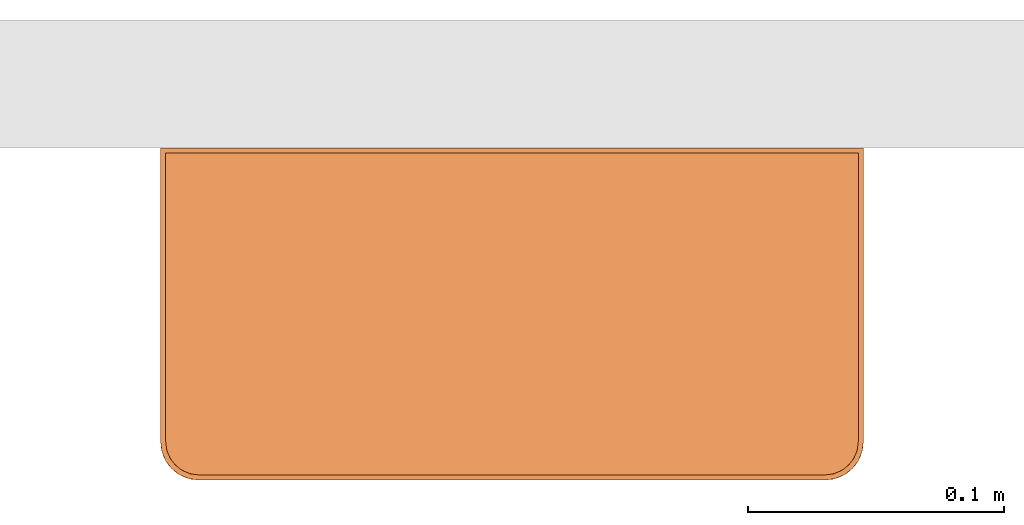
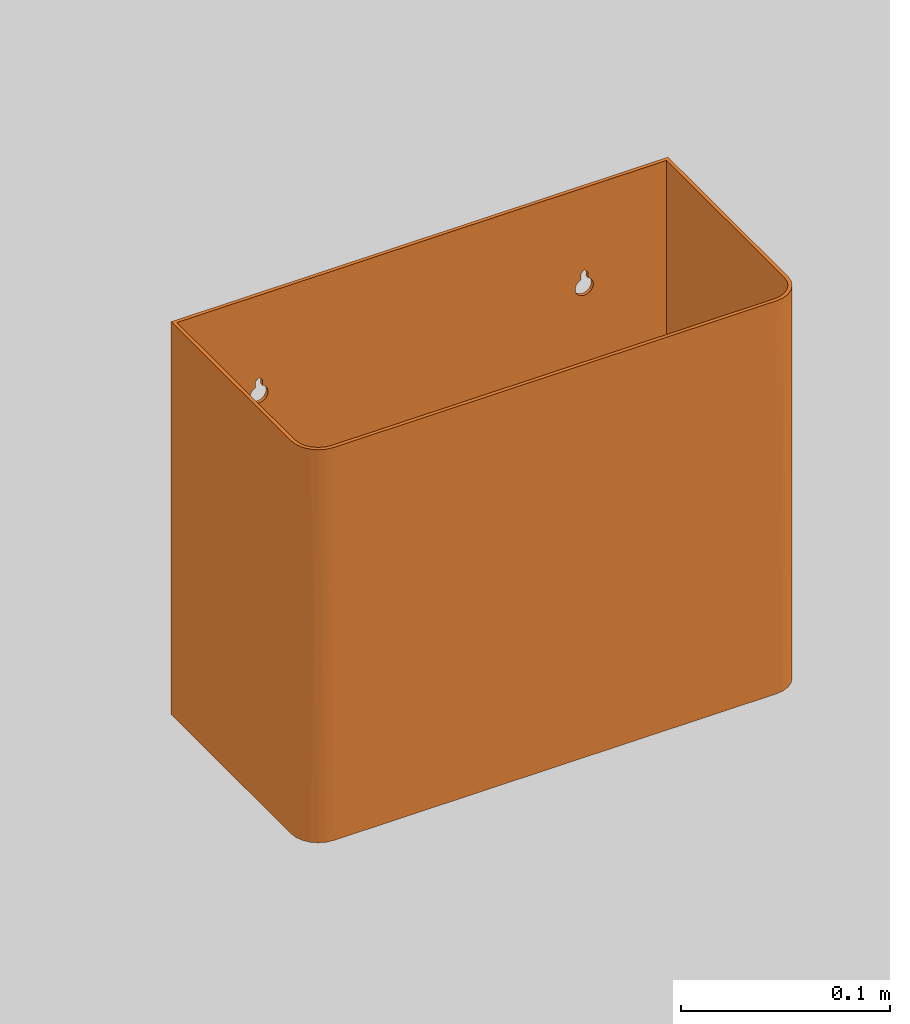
# One storey, part 2 of 2: 1 proxy.
"""IFC2X3 building model written with IfcOpenShell, lengths in millimetres."""

from ifc_helpers import new_model, entity, si_unit, converted_unit, derived_unit, direction, frame, origin, place, context, subcontext, project, spatial, faceted_brep, source, transform, mapped, material, material_list, element, save


model = new_model("IFC2X3")

# Units and contexts
model_context = context("Model", 3, precision=1e-05, world=origin(), true_north=direction((2.0, 6.12303176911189e-17, 1.0)))
context_of_model = context(None, 3, precision=1e-05, world=origin(), true_north=direction((2.0, 6.12303176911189e-17, 1.0)))
body_context = subcontext(model_context, "Body", "Model", "MODEL_VIEW")
ifc_project = project(units=[si_unit("LENGTHUNIT", "METRE", prefix="MILLI"), si_unit("AREAUNIT", "SQUARE_METRE"), si_unit("VOLUMEUNIT", "CUBIC_METRE"), converted_unit("PLANEANGLEUNIT", "DEGREE", entity("IfcRatioMeasure", 0.0174532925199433), si_unit("PLANEANGLEUNIT", "RADIAN"), dimensions=[0, 0, 0, 0, 0, 0, 0]), si_unit("MASSUNIT", "GRAM", prefix="KILO"), si_unit("TIMEUNIT", "SECOND"), si_unit("THERMODYNAMICTEMPERATUREUNIT", "KELVIN"), derived_unit("THERMALTRANSMITTANCEUNIT", [(si_unit("MASSUNIT", "GRAM", prefix="KILO"), 1), (si_unit("THERMODYNAMICTEMPERATUREUNIT", "KELVIN"), -1), (si_unit("TIMEUNIT", "SECOND"), -3)]), derived_unit("VOLUMETRICFLOWRATEUNIT", [(si_unit("LENGTHUNIT", "METRE"), 3), (si_unit("TIMEUNIT", "SECOND"), -1)]), si_unit("POWERUNIT", "WATT")], contexts=[model_context, context_of_model])

# Site, building, storey
site_placement = place(None, origin())
site = spatial("IfcSite", under=ifc_project, at=site_placement, Name="Default", CompositionType="ELEMENT")
building_placement = place(site_placement, origin())
building = spatial("IfcBuilding", under=site, at=building_placement, CompositionType="ELEMENT")
storey_placement = place(building_placement, origin())
storey = spatial("IfcBuildingStorey", under=building, at=storey_placement, Name="Level 1", CompositionType="ELEMENT", Elevation=0.0)

# Proxy
ifc_material = material(Name="Stainless Steel")
ifc_material_list = material_list([ifc_material])
shared_shape = source(origin(), body_context, "Body", "Brep", [
    faceted_brep([(137.5, 0.0, 230.0), (135.5, -2.0, 230.0), (137.5, -115.0, 230.0), (-135.5, -2.0, 230.0), (-137.5, 0.0, 230.0), (-137.500000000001, -115.0, 230.0), (-135.500000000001, -115.0, 230.0), (-135.057035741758, -118.364647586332, 230.0), (-136.988887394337, -118.882285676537, 230.0), (-135.490381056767, -122.499999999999, 230.0), (-133.758330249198, -121.499999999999, 230.0), (-133.106601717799, -125.606601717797, 230.0), (-131.692388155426, -124.192388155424, 230.0), (-130.0, -127.990381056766, 230.0), (-129.0, -126.258330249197, 230.0), (-126.382285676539, -129.488887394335, 230.0), (-125.864647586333, -127.557035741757, 230.0), (-122.500000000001, -130.0, 230.0), (-122.500000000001, -128.0, 230.0), (122.5, -128.0, 230.0), (122.5, -130.0, 230.0), (125.864647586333, -127.557035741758, 230.0), (126.382285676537, -129.488887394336, 230.0), (129.0, -126.258330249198, 230.0), (130.0, -127.990381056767, 230.0), (131.692388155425, -124.192388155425, 230.0), (133.106601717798, -125.606601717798, 230.0), (133.758330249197, -121.5, 230.0), (135.490381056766, -122.5, 230.0), (135.057035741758, -118.364647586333, 230.0), (136.988887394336, -118.882285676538, 230.0), (135.5, -115.0, 230.0), (-137.5, 0.0, 0.0), (-135.5, -2.0, 0.0), (-137.500000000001, -115.0, 0.0), (135.5, -2.0, 0.0), (137.5, 0.0, 0.0), (137.5, -115.0, 0.0), (135.5, -115.0, 0.0), (135.057035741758, -118.364647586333, 0.0), (136.988887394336, -118.882285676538, 0.0), (135.490381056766, -122.5, 0.0), (133.758330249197, -121.5, 0.0), (133.106601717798, -125.606601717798, 0.0), (131.692388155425, -124.192388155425, 0.0), (130.0, -127.990381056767, 0.0), (129.0, -126.258330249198, 0.0), (126.382285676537, -129.488887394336, 0.0), (125.864647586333, -127.557035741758, 0.0), (122.5, -130.0, 0.0), (122.5, -128.0, 0.0), (-122.500000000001, -128.0, 0.0), (-122.500000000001, -130.0, 0.0), (-125.864647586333, -127.557035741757, 0.0), (-126.382285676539, -129.488887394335, 0.0), (-129.0, -126.258330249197, 0.0), (-130.0, -127.990381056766, 0.0), (-131.692388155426, -124.192388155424, 0.0), (-133.106601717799, -125.606601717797, 0.0), (-133.758330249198, -121.499999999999, 0.0), (-135.490381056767, -122.499999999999, 0.0), (-135.057035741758, -118.364647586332, 0.0), (-136.988887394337, -118.882285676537, 0.0), (-135.500000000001, -115.0, 0.0), (91.9739309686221, 0.0, 180.0), (93.0956506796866, 0.0, 175.941879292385), (91.9739309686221, 0.0, 176.609302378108), (94.006406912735, 0.0, 175.006875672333), (94.6441331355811, 0.0, 173.868010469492), (90.0, 0.0, 181.973930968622), (-90.0, 0.0, 181.973930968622), (-88.0260690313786, 0.0, 180.0), (88.0260690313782, 0.0, 180.0), (85.3722684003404, 0.0, 173.908609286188), (86.0111260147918, 0.0, 175.030214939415), (86.9158242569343, 0.0, 175.950899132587), (88.0260690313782, 0.0, 176.609302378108), (-85.3558668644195, 0.0, 173.868010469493), (85.0418284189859, 0.0, 172.660832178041), (-85.0346306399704, 0.0, 172.602895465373), (85.0418284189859, 0.0, 171.370042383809), (-85.0517761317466, 0.0, 171.297746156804), (85.3722684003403, 0.0, 170.122265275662), (-85.4061349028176, 0.0, 170.041506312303), (86.0111260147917, 0.0, 169.000659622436), (-86.0735579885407, 0.0, 168.919786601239), (86.9158242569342, 0.0, 168.079975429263), (-87.0085616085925, 0.0, 168.00903036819), (88.0260690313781, 0.0, 167.421572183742), (89.282308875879, 0.0, 167.067213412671), (90.5874581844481, 0.0, 167.050067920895), (91.8525731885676, 0.0, 167.371304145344), (92.9914383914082, 0.0, 168.00903036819), (93.92644201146, 0.0, 168.919786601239), (94.593865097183, 0.0, 170.041506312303), (94.948223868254, 0.0, 171.297746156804), (94.9653693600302, 0.0, 172.602895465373), (-88.1474268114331, 0.0, 167.371304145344), (-89.4125418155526, 0.0, 167.050067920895), (-90.7176911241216, 0.0, 167.067213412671), (-91.9739309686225, 0.0, 167.421572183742), (-93.0841757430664, 0.0, 168.079975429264), (-93.988873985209, 0.0, 169.000659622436), (-94.6277315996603, 0.0, 170.122265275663), (-91.9739309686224, 0.0, 180.0), (-94.6277315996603, 0.0, 173.908609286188), (-94.9581715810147, 0.0, 172.660832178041), (-94.9581715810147, 0.0, 171.37004238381), (-85.9935930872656, 0.0, 175.006875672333), (-86.9043493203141, 0.0, 175.941879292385), (-88.0260690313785, 0.0, 176.609302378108), (-93.9888739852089, 0.0, 175.030214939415), (-93.0841757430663, 0.0, 175.950899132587), (-91.9739309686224, 0.0, 176.609302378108), (-137.500000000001, -115.0, 114.999756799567), (-136.358192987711, -120.740251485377, 115.0), (-125.426354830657, -129.711779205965, 144.660147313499), (-128.240251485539, -128.858192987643, 115.0), (-137.211779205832, -117.926354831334, 85.3398527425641), (-134.400300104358, -124.131421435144, 99.2597790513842), (-122.500000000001, -130.0, 115.0), (-131.631421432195, -126.900300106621, 130.740221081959), (122.5, -130.0, 115.0), (128.240251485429, -128.858192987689, 115.0), (137.211779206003, -117.926354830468, 144.660147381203), (136.358192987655, -120.74025148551, 115.0), (125.426354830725, -129.711779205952, 85.3398526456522), (131.631421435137, -126.900300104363, 99.2597789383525), (137.5, -115.0, 115.0), (134.400300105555, -124.131421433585, 130.740221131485), (135.5, -115.0, 115.0), (132.813593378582, -122.913898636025, 141.133766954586), (134.510433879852, -119.97488472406, 115.00000278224), (135.250208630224, -117.536174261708, 151.589180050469), (125.036174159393, -127.750208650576, 78.4108225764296), (135.293247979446, -117.30928693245, 72.7352310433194), (132.813593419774, -122.913898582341, 62.0475025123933), (130.413898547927, -125.313593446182, 167.952499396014), (127.474884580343, -127.010433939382, 115.000000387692), (130.413898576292, -125.313593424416, 88.86623633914), (122.5, -128.0, 115.0), (124.809286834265, -127.79324799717, 157.264775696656), (-122.500000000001, -128.0, 125.895203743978), (-127.474884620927, -127.010433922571, 88.8662344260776), (-125.780790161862, -127.579205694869, 150.045238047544), (-124.765687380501, -127.801041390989, 75.870035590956), (-130.413898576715, -125.313593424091, 115.0), (-128.187269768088, -126.689951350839, 160.129772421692), (-132.813593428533, -122.913898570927, 167.952498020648), (-132.81359342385, -122.91389857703, 88.8662341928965), (-134.510433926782, -119.974884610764, 115.0), (-135.500000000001, -115.0, 115.000212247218), (-135.293247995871, -117.309286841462, 157.264775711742), (-135.25020864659, -117.536174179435, 78.4108226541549), (-91.9739309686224, -2.0, 180.0), (-93.0841757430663, -2.0, 175.950899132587), (-91.9739309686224, -2.0, 176.609302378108), (-93.9888739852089, -2.0, 175.030214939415), (-94.6277315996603, -2.0, 173.908609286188), (-90.0, -2.0, 181.973930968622), (90.0, -2.0, 181.973930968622), (88.0260690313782, -2.0, 180.0), (-88.0260690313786, -2.0, 180.0), (85.3722684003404, -2.0, 173.908609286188), (-85.3558668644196, -2.0, 173.868010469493), (-85.9935930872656, -2.0, 175.006875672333), (-86.9043493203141, -2.0, 175.941879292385), (-88.0260690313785, -2.0, 176.609302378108), (85.0418284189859, -2.0, 172.660832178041), (-85.0346306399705, -2.0, 172.602895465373), (85.0418284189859, -2.0, 171.370042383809), (-85.0517761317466, -2.0, 171.297746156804), (85.3722684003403, -2.0, 170.122265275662), (-85.4061349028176, -2.0, 170.041506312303), (86.0111260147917, -2.0, 169.000659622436), (-86.0735579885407, -2.0, 168.919786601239), (86.9158242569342, -2.0, 168.079975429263), (-87.0085616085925, -2.0, 168.00903036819), (-88.1474268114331, -2.0, 167.371304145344), (-89.4125418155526, -2.0, 167.050067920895), (-90.7176911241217, -2.0, 167.067213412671), (-91.9739309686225, -2.0, 167.421572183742), (-93.0841757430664, -2.0, 168.079975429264), (-93.988873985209, -2.0, 169.000659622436), (-94.6277315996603, -2.0, 170.122265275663), (-94.9581715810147, -2.0, 171.37004238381), (-94.9581715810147, -2.0, 172.660832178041), (88.0260690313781, -2.0, 167.421572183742), (89.282308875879, -2.0, 167.067213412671), (90.5874581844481, -2.0, 167.050067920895), (91.8525731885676, -2.0, 167.371304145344), (92.9914383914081, -2.0, 168.00903036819), (93.92644201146, -2.0, 168.919786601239), (94.593865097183, -2.0, 170.041506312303), (91.9739309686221, -2.0, 180.0), (94.6441331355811, -2.0, 173.868010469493), (94.9653693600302, -2.0, 172.602895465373), (94.948223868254, -2.0, 171.297746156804), (86.0111260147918, -2.0, 175.030214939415), (86.9158242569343, -2.0, 175.950899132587), (88.0260690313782, -2.0, 176.609302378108), (94.006406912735, -2.0, 175.006875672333), (93.0956506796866, -2.0, 175.941879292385), (91.9739309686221, -2.0, 176.609302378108)], [[[0, 1, 2]], [[1, 0, 3]], [[4, 3, 0]], [[3, 4, 5]], [[5, 6, 3]], [[7, 6, 5]], [[8, 7, 5]], [[9, 7, 8]], [[9, 10, 7]], [[10, 9, 11]], [[11, 12, 10]], [[12, 11, 13]], [[13, 14, 12]], [[14, 13, 15]], [[16, 14, 15]], [[15, 17, 16]], [[18, 16, 17]], [[18, 17, 19]], [[19, 17, 20]], [[21, 19, 20]], [[20, 22, 21]], [[21, 22, 23]], [[24, 23, 22]], [[23, 24, 25]], [[26, 25, 24]], [[25, 26, 27]], [[28, 27, 26]], [[27, 28, 29]], [[29, 28, 30]], [[29, 30, 2]], [[2, 1, 31]], [[29, 2, 31]], [[32, 33, 34]], [[33, 32, 35]], [[36, 35, 32]], [[35, 36, 37]], [[37, 38, 35]], [[39, 38, 37]], [[40, 39, 37]], [[41, 39, 40]], [[41, 42, 39]], [[42, 41, 43]], [[43, 44, 42]], [[44, 43, 45]], [[45, 46, 44]], [[46, 45, 47]], [[48, 46, 47]], [[47, 49, 48]], [[50, 48, 49]], [[50, 49, 51]], [[51, 49, 52]], [[53, 51, 52]], [[52, 54, 53]], [[53, 54, 55]], [[56, 55, 54]], [[55, 56, 57]], [[58, 57, 56]], [[57, 58, 59]], [[60, 59, 58]], [[59, 60, 61]], [[61, 60, 62]], [[61, 62, 34]], [[34, 33, 63]], [[61, 34, 63]], [[64, 65, 66]], [[67, 65, 64]], [[68, 67, 64]], [[68, 64, 0]], [[0, 64, 69]], [[0, 69, 70]], [[71, 70, 69]], [[71, 69, 72]], [[72, 73, 71]], [[74, 73, 72]], [[75, 74, 72]], [[72, 76, 75]], [[73, 77, 71]], [[77, 73, 78]], [[79, 77, 78]], [[80, 79, 78]], [[81, 79, 80]], [[80, 82, 81]], [[83, 81, 82]], [[83, 82, 84]], [[84, 85, 83]], [[86, 85, 84]], [[85, 86, 87]], [[36, 87, 86]], [[86, 88, 36]], [[88, 89, 36]], [[89, 90, 36]], [[91, 36, 90]], [[92, 36, 91]], [[36, 92, 93]], [[93, 94, 36]], [[95, 0, 94]], [[0, 36, 94]], [[0, 95, 96]], [[96, 68, 0]], [[32, 87, 36]], [[97, 87, 32]], [[98, 97, 32]], [[32, 99, 98]], [[99, 32, 100]], [[101, 100, 32]], [[101, 32, 102]], [[103, 102, 32]], [[103, 32, 4]], [[104, 4, 70]], [[105, 4, 104]], [[70, 4, 0]], [[105, 106, 4]], [[4, 106, 107]], [[103, 4, 107]], [[71, 77, 108]], [[108, 109, 71]], [[110, 71, 109]], [[111, 105, 104]], [[111, 104, 112]], [[113, 112, 104]], [[4, 32, 34, 114, 5]], [[115, 62, 60]], [[54, 116, 117]], [[34, 118, 114]], [[119, 115, 60]], [[60, 58, 119]], [[118, 62, 115]], [[116, 17, 15]], [[114, 8, 5]], [[9, 8, 115]], [[62, 118, 34]], [[9, 115, 119]], [[17, 116, 120]], [[117, 56, 54]], [[121, 119, 58]], [[11, 119, 121]], [[54, 52, 120]], [[58, 56, 121]], [[121, 117, 13]], [[114, 118, 8]], [[117, 15, 13]], [[117, 116, 15]], [[9, 119, 11]], [[120, 116, 54]], [[56, 117, 121]], [[8, 118, 115]], [[121, 13, 11]], [[17, 120, 52, 49, 122, 20]], [[123, 47, 45]], [[40, 124, 125]], [[49, 126, 122]], [[127, 123, 45]], [[45, 43, 127]], [[126, 47, 123]], [[124, 2, 30]], [[122, 22, 20]], [[24, 22, 123]], [[47, 126, 49]], [[24, 123, 127]], [[2, 124, 128]], [[125, 41, 40]], [[129, 127, 43]], [[26, 127, 129]], [[40, 37, 128]], [[43, 41, 129]], [[129, 125, 28]], [[122, 126, 22]], [[125, 30, 28]], [[125, 124, 30]], [[24, 127, 26]], [[128, 124, 40]], [[41, 125, 129]], [[22, 126, 123]], [[129, 28, 26]], [[0, 2, 128, 37, 36]], [[1, 35, 38, 130, 31]], [[131, 25, 27]], [[42, 132, 39]], [[132, 27, 29]], [[132, 29, 133]], [[48, 50, 134]], [[135, 130, 38]], [[135, 133, 130]], [[29, 31, 133]], [[136, 131, 132]], [[44, 136, 42]], [[27, 132, 131]], [[137, 23, 25]], [[21, 23, 138]], [[23, 137, 138]], [[131, 136, 139]], [[140, 19, 141]], [[46, 138, 139]], [[139, 138, 137]], [[137, 25, 131]], [[46, 139, 44]], [[48, 134, 138]], [[44, 139, 136]], [[42, 136, 132]], [[48, 138, 46]], [[139, 137, 131]], [[141, 134, 140]], [[39, 132, 135]], [[130, 133, 31]], [[133, 135, 132]], [[39, 135, 38]], [[21, 138, 141]], [[140, 134, 50]], [[134, 141, 138]], [[21, 141, 19]], [[19, 140, 50, 51, 142, 18]], [[143, 144, 145]], [[145, 144, 142]], [[144, 18, 142]], [[55, 146, 143]], [[146, 147, 143]], [[16, 18, 144]], [[14, 146, 12]], [[145, 142, 51]], [[55, 57, 146]], [[143, 53, 55]], [[148, 149, 150]], [[14, 16, 147]], [[7, 10, 150]], [[149, 59, 150]], [[12, 146, 148]], [[151, 6, 152]], [[149, 146, 57]], [[12, 148, 10]], [[53, 143, 145]], [[149, 57, 59]], [[61, 153, 150]], [[61, 150, 59]], [[147, 144, 143]], [[152, 153, 151]], [[53, 145, 51]], [[61, 63, 153]], [[144, 147, 16]], [[14, 147, 146]], [[10, 148, 150]], [[149, 148, 146]], [[7, 150, 152]], [[151, 153, 63]], [[153, 152, 150]], [[7, 152, 6]], [[3, 6, 151, 63, 33]], [[154, 155, 156]], [[157, 155, 154]], [[158, 157, 154]], [[158, 154, 3]], [[3, 154, 159]], [[3, 159, 160]], [[160, 159, 161]], [[161, 159, 162]], [[161, 162, 163]], [[162, 164, 163]], [[165, 164, 162]], [[166, 165, 162]], [[162, 167, 166]], [[168, 163, 164]], [[164, 169, 168]], [[169, 170, 168]], [[171, 170, 169]], [[171, 172, 170]], [[171, 173, 172]], [[174, 172, 173]], [[174, 173, 175]], [[175, 176, 174]], [[177, 176, 175]], [[177, 35, 176]], [[33, 35, 177]], [[177, 178, 33]], [[178, 179, 33]], [[179, 180, 33]], [[181, 33, 180]], [[182, 33, 181]], [[33, 182, 183]], [[183, 184, 33]], [[185, 3, 184]], [[3, 33, 184]], [[3, 185, 186]], [[186, 158, 3]], [[187, 176, 35]], [[188, 187, 35]], [[35, 189, 188]], [[189, 35, 190]], [[191, 190, 35]], [[191, 35, 192]], [[193, 192, 35]], [[193, 35, 1]], [[1, 160, 194]], [[1, 3, 160]], [[1, 194, 195]], [[195, 196, 1]], [[1, 196, 197]], [[193, 1, 197]], [[163, 198, 161]], [[199, 161, 198]], [[161, 199, 200]], [[201, 195, 194]], [[202, 201, 194]], [[202, 194, 203]], [[72, 161, 200, 76]], [[199, 75, 76, 200]], [[168, 78, 73, 163]], [[163, 73, 74, 198]], [[198, 74, 75, 199]], [[168, 170, 80, 78]], [[172, 82, 80, 170]], [[187, 88, 86, 176]], [[176, 86, 84, 174]], [[174, 84, 82, 172]], [[189, 90, 89, 188]], [[188, 89, 88, 187]], [[192, 93, 92, 191]], [[191, 92, 91, 190]], [[190, 91, 90, 189]], [[93, 192, 193, 94]], [[195, 68, 96, 196]], [[196, 96, 95, 197]], [[203, 66, 65, 202]], [[202, 65, 67, 201]], [[201, 67, 68, 195]], [[94, 193, 197, 95]], [[66, 203, 194, 64]], [[160, 69, 64, 194]], [[161, 72, 69, 160]], [[104, 154, 156, 113]], [[155, 112, 113, 156]], [[186, 106, 105, 158]], [[158, 105, 111, 157]], [[157, 111, 112, 155]], [[186, 185, 107, 106]], [[184, 103, 107, 185]], [[181, 100, 101, 182]], [[182, 101, 102, 183]], [[183, 102, 103, 184]], [[179, 98, 99, 180]], [[180, 99, 100, 181]], [[175, 85, 87, 177]], [[177, 87, 97, 178]], [[178, 97, 98, 179]], [[85, 175, 173, 83]], [[164, 77, 79, 169]], [[169, 79, 81, 171]], [[167, 110, 109, 166]], [[166, 109, 108, 165]], [[165, 108, 77, 164]], [[83, 173, 171, 81]], [[110, 167, 162, 71]], [[159, 70, 71, 162]], [[154, 104, 70, 159]]]),
    faceted_brep([(122.5, -129.0, 5.0), (126.123466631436, -128.522961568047, 5.0), (129.5, -127.124355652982, 5.0), (132.399494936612, -124.899494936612, 5.0), (134.624355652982, -122.0, 5.0), (136.022961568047, -118.623466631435, 5.0), (136.5, -115.0, 5.0), (136.5, -1.0, 5.0), (-136.5, -1.0, 5.0), (-136.500000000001, -115.0, 5.0), (-136.022961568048, -118.623466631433, 5.0), (-134.624355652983, -122.0, 5.0), (-132.399494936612, -124.89949493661, 5.0), (-129.5, -127.124355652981, 5.0), (-126.123466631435, -128.522961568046, 5.0), (-122.499999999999, -129.0, 5.0), (-134.624355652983, -122.0, 0.0), (-136.022961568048, -118.623466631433, 0.0), (-136.500000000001, -115.0, 0.0), (-136.5, -1.0, 0.0), (136.5, -1.0, 0.0), (136.5, -115.0, 0.0), (136.022961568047, -118.623466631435, 0.0), (134.624355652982, -122.0, 0.0), (132.399494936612, -124.899494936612, 0.0), (129.5, -127.124355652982, 0.0), (126.123466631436, -128.522961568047, 0.0), (122.5, -129.0, 0.0), (-122.499999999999, -129.0, 0.0), (-126.123466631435, -128.522961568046, 0.0), (-129.5, -127.124355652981, 0.0), (-132.399494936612, -124.89949493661, 0.0)], [[[0, 1, 2, 3, 4, 5, 6, 7, 8, 9, 10, 11, 12, 13, 14, 15]], [[16, 17, 18, 19, 20, 21, 22, 23, 24, 25, 26, 27, 28, 29, 30, 31]], [[8, 7, 20, 19]], [[9, 8, 19, 18]], [[10, 9, 18, 17]], [[11, 10, 17, 16]], [[12, 11, 16, 31]], [[13, 12, 31, 30]], [[14, 13, 30, 29]], [[15, 14, 29, 28]], [[0, 15, 28, 27]], [[1, 0, 27, 26]], [[2, 1, 26, 25]], [[3, 2, 25, 24]], [[4, 3, 24, 23]], [[5, 4, 23, 22]], [[6, 5, 22, 21]], [[7, 6, 21, 20]]]),
])
proxy_placement = place(storey_placement, frame((199.252263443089, 3952.69853342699, 375.253622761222)))
element("IfcBuildingElementProxy", 1, at=proxy_placement, inside=storey, material=ifc_material_list, Name="BC922:BC922 Dolphin Stainless Steel Surface Mounted Bin", ObjectType="BC922 Dolphin Stainless Steel Surface Mounted Bin", CompositionType="ELEMENT", context=body_context, shape_type="MappedRepresentation", body=[
    mapped(shared_shape, transform((0.0, 0.0, 0.0), scale=1.0)),
])

save(model, "model.ifc")
